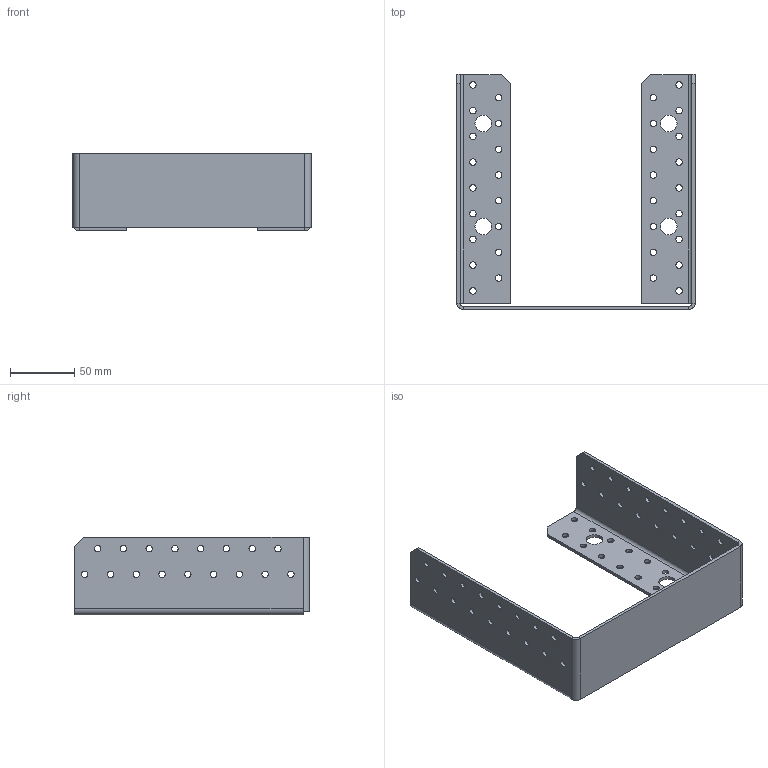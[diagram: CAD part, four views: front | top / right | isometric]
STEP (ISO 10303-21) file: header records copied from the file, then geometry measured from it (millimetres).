
FILE_DESCRIPTION (( 'STEP AP203' ), '1' );
FILE_NAME ('40542IKO.STEP', '2021-04-16T09:36:00', ( '' ), ( '' ), 'SwSTEP 2.0', 'SolidWorks 2013', '' );
FILE_SCHEMA (( 'CONFIG_CONTROL_DESIGN' ));
Length unit declared in the file: millimetre
Products named in the file (1): 40542IKO
Bounding box: 185 x 182.5 x 60.5 mm (x, y, z)
Volume: 109050.8 mm3; surface area: 93678.4 mm2
Topology: 1 solids, 1 shells, 188 faces, 528 edges, 342 vertices
Faces by surface type: cylinder 152, plane 36
Entity records: 6563 total; most frequent: DIRECTION 1212, CARTESIAN_POINT 1059, ORIENTED_EDGE 1056, EDGE_CURVE 528, AXIS2_PLACEMENT_3D 495, VERTEX_POINT 342, EDGE_LOOP 332, CIRCLE 306
